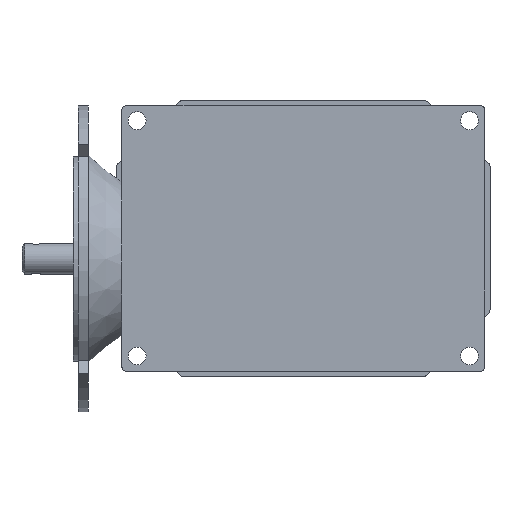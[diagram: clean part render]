
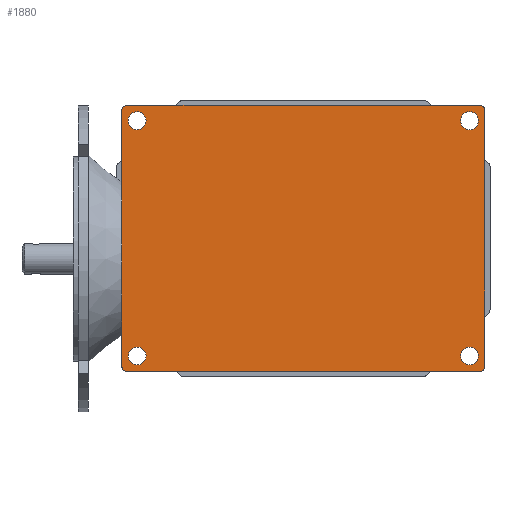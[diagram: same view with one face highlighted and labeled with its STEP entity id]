
A CAD part, front view. The second image highlights one B-rep face of the part: STEP entity #1880.
In plain terms, the highlighted planar face has unit normal (0, -1, 0).
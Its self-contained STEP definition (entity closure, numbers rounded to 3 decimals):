
#46=LINE('',#2821,#210);
#48=LINE('',#2844,#212);
#54=LINE('',#2856,#218);
#109=LINE('',#3051,#273);
#110=LINE('',#3052,#274);
#111=LINE('',#3053,#275);
#210=VECTOR('',#2224,53.066);
#212=VECTOR('',#2240,31.467);
#218=VECTOR('',#2248,15.467);
#273=VECTOR('',#2419,138.);
#274=VECTOR('',#2420,100.);
#275=VECTOR('',#2421,138.);
#382=PLANE('',#2046);
#438=FACE_BOUND('',#606,.T.);
#439=FACE_BOUND('',#607,.T.);
#440=FACE_BOUND('',#608,.T.);
#441=FACE_BOUND('',#609,.T.);
#483=FACE_OUTER_BOUND('',#605,.T.);
#605=EDGE_LOOP('',(#1411,#1412,#1413,#1414,#1415,#1416,#1417,#1418,#1419,
#1420));
#606=EDGE_LOOP('',(#1421));
#607=EDGE_LOOP('',(#1422));
#608=EDGE_LOOP('',(#1423));
#609=EDGE_LOOP('',(#1424));
#730=CIRCLE('',#1998,3.5);
#732=CIRCLE('',#2001,3.5);
#734=CIRCLE('',#2004,3.5);
#735=CIRCLE('',#2006,3.5);
#755=CIRCLE('',#2034,2.);
#758=CIRCLE('',#2039,2.);
#762=CIRCLE('',#2045,2.);
#763=CIRCLE('',#2047,2.);
#819=VERTEX_POINT('',#2819);
#820=VERTEX_POINT('',#2820);
#826=VERTEX_POINT('',#2843);
#830=VERTEX_POINT('',#2853);
#839=VERTEX_POINT('',#2877);
#841=VERTEX_POINT('',#2882);
#843=VERTEX_POINT('',#2887);
#844=VERTEX_POINT('',#2890);
#899=VERTEX_POINT('',#3012);
#900=VERTEX_POINT('',#3014);
#904=VERTEX_POINT('',#3026);
#911=VERTEX_POINT('',#3043);
#912=VERTEX_POINT('',#3044);
#913=VERTEX_POINT('',#3049);
#1009=EDGE_CURVE('',#819,#820,#46,.T.);
#1017=EDGE_CURVE('',#820,#826,#48,.T.);
#1023=EDGE_CURVE('',#830,#819,#54,.T.);
#1034=EDGE_CURVE('',#839,#839,#730,.T.);
#1036=EDGE_CURVE('',#841,#841,#732,.T.);
#1038=EDGE_CURVE('',#843,#843,#734,.T.);
#1039=EDGE_CURVE('',#844,#844,#735,.T.);
#1099=EDGE_CURVE('',#899,#900,#755,.T.);
#1105=EDGE_CURVE('',#904,#830,#758,.T.);
#1113=EDGE_CURVE('',#911,#912,#762,.T.);
#1116=EDGE_CURVE('',#826,#913,#763,.T.);
#1117=EDGE_CURVE('',#904,#900,#109,.T.);
#1118=EDGE_CURVE('',#912,#899,#110,.T.);
#1119=EDGE_CURVE('',#913,#911,#111,.T.);
#1411=ORIENTED_EDGE('',*,*,#1116,.F.);
#1412=ORIENTED_EDGE('',*,*,#1017,.F.);
#1413=ORIENTED_EDGE('',*,*,#1009,.F.);
#1414=ORIENTED_EDGE('',*,*,#1023,.F.);
#1415=ORIENTED_EDGE('',*,*,#1105,.F.);
#1416=ORIENTED_EDGE('',*,*,#1117,.T.);
#1417=ORIENTED_EDGE('',*,*,#1099,.F.);
#1418=ORIENTED_EDGE('',*,*,#1118,.F.);
#1419=ORIENTED_EDGE('',*,*,#1113,.F.);
#1420=ORIENTED_EDGE('',*,*,#1119,.F.);
#1421=ORIENTED_EDGE('',*,*,#1034,.T.);
#1422=ORIENTED_EDGE('',*,*,#1036,.T.);
#1423=ORIENTED_EDGE('',*,*,#1038,.T.);
#1424=ORIENTED_EDGE('',*,*,#1039,.T.);
#1880=ADVANCED_FACE('',(#483,#438,#439,#440,#441),#382,.T.);
#1998=AXIS2_PLACEMENT_3D('',#2878,#2270,#2271);
#2001=AXIS2_PLACEMENT_3D('',#2883,#2276,#2277);
#2004=AXIS2_PLACEMENT_3D('',#2888,#2282,#2283);
#2006=AXIS2_PLACEMENT_3D('',#2891,#2286,#2287);
#2034=AXIS2_PLACEMENT_3D('',#3015,#2382,#2383);
#2039=AXIS2_PLACEMENT_3D('',#3027,#2395,#2396);
#2045=AXIS2_PLACEMENT_3D('',#3045,#2411,#2412);
#2046=AXIS2_PLACEMENT_3D('',#3048,#2415,#2416);
#2047=AXIS2_PLACEMENT_3D('',#3050,#2417,#2418);
#2224=DIRECTION('',(0.,0.,1.));
#2240=DIRECTION('',(0.,0.,1.));
#2248=DIRECTION('',(0.,0.,1.));
#2270=DIRECTION('center_axis',(0.,1.,0.));
#2271=DIRECTION('ref_axis',(1.,0.,0.));
#2276=DIRECTION('center_axis',(0.,1.,0.));
#2277=DIRECTION('ref_axis',(1.,0.,0.));
#2282=DIRECTION('center_axis',(0.,1.,0.));
#2283=DIRECTION('ref_axis',(1.,0.,0.));
#2286=DIRECTION('center_axis',(0.,1.,0.));
#2287=DIRECTION('ref_axis',(1.,0.,0.));
#2382=DIRECTION('center_axis',(0.,1.,0.));
#2383=DIRECTION('ref_axis',(0.707,0.,-0.707));
#2395=DIRECTION('center_axis',(0.,1.,0.));
#2396=DIRECTION('ref_axis',(-0.707,0.,-0.707));
#2411=DIRECTION('center_axis',(0.,1.,0.));
#2412=DIRECTION('ref_axis',(0.707,0.,0.707));
#2415=DIRECTION('center_axis',(0.,-1.,0.));
#2416=DIRECTION('ref_axis',(0.,0.,-1.));
#2417=DIRECTION('center_axis',(0.,1.,0.));
#2418=DIRECTION('ref_axis',(-0.707,0.,0.707));
#2419=DIRECTION('',(1.,0.,0.));
#2420=DIRECTION('',(0.,0.,-1.));
#2421=DIRECTION('',(1.,0.,0.));
#2819=CARTESIAN_POINT('',(39.,-14.,-26.533));
#2820=CARTESIAN_POINT('',(39.,-14.,26.533));
#2821=CARTESIAN_POINT('',(39.,-14.,30.));
#2843=CARTESIAN_POINT('',(39.,-14.,58.));
#2844=CARTESIAN_POINT('',(39.,-14.,-44.));
#2853=CARTESIAN_POINT('',(39.,-14.,-42.));
#2856=CARTESIAN_POINT('',(39.,-14.,-44.));
#2877=CARTESIAN_POINT('',(178.5,-14.,54.));
#2878=CARTESIAN_POINT('Origin',(175.,-14.,54.));
#2882=CARTESIAN_POINT('',(178.5,-14.,-38.));
#2883=CARTESIAN_POINT('Origin',(175.,-14.,-38.));
#2887=CARTESIAN_POINT('',(48.5,-14.,-38.));
#2888=CARTESIAN_POINT('Origin',(45.,-14.,-38.));
#2890=CARTESIAN_POINT('',(48.5,-14.,54.));
#2891=CARTESIAN_POINT('Origin',(45.,-14.,54.));
#3012=CARTESIAN_POINT('',(181.,-14.,-42.));
#3014=CARTESIAN_POINT('',(179.,-14.,-44.));
#3015=CARTESIAN_POINT('Origin',(179.,-14.,-42.));
#3026=CARTESIAN_POINT('',(41.,-14.,-44.));
#3027=CARTESIAN_POINT('Origin',(41.,-14.,-42.));
#3043=CARTESIAN_POINT('',(179.,-14.,60.));
#3044=CARTESIAN_POINT('',(181.,-14.,58.));
#3045=CARTESIAN_POINT('Origin',(179.,-14.,58.));
#3048=CARTESIAN_POINT('Origin',(39.,-14.,60.));
#3049=CARTESIAN_POINT('',(41.,-14.,60.));
#3050=CARTESIAN_POINT('Origin',(41.,-14.,58.));
#3051=CARTESIAN_POINT('',(39.,-14.,-44.));
#3052=CARTESIAN_POINT('',(181.,-14.,-44.));
#3053=CARTESIAN_POINT('',(39.,-14.,60.));
